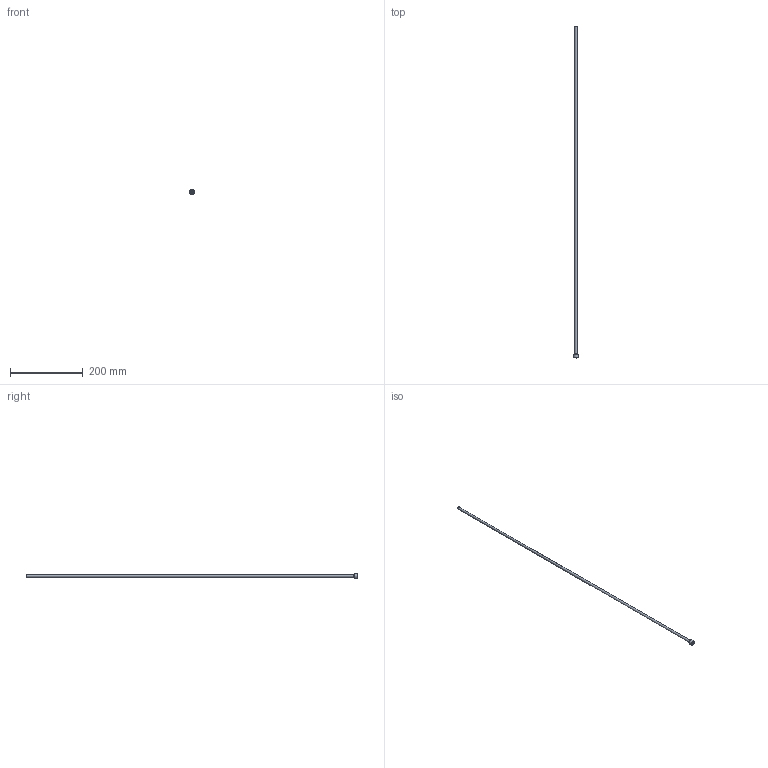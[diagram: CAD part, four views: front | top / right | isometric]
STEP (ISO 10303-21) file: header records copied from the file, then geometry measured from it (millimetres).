
FILE_DESCRIPTION(/* description */ (''),/* implementation_level */ '2;1');
FILE_NAME(/* name */ 'C:/Users/drich/Desktop/PT14-250-36 v1.step',/* time_stamp */ '2019-12-27T15:09:10-06:00',/* author */ (''),/* organization */ (''),/* preprocessor_version */ 'ST-DEVELOPER v18',/* originating_system */ 'Autodesk Translation Framework v8.12.0.6',/* authorisation */ '');
FILE_SCHEMA (('AUTOMOTIVE_DESIGN { 1 0 10303 214 3 1 1 }'));
Length unit declared in the file: inch
Products named in the file (1): PT14-250-36
Bounding box: 13.03 x 914.4 x 13.03 mm (x, y, z)
Volume: 5473.6 mm3; surface area: 35454.6 mm2
Topology: 1 solids, 1 shells, 19 faces, 48 edges, 34 vertices
Faces by surface type: plane 11, cylinder 4, torus 2, cone 2
Full cylindrical faces by diameter (mm): 5.842 x1, 6.35 x1, 8.712 x1, 13.032 x1
Entity records: 633 total; most frequent: DIRECTION 112, CARTESIAN_POINT 102, ORIENTED_EDGE 96, EDGE_CURVE 48, AXIS2_PLACEMENT_3D 44, VERTEX_POINT 34, CIRCLE 24, EDGE_LOOP 24
